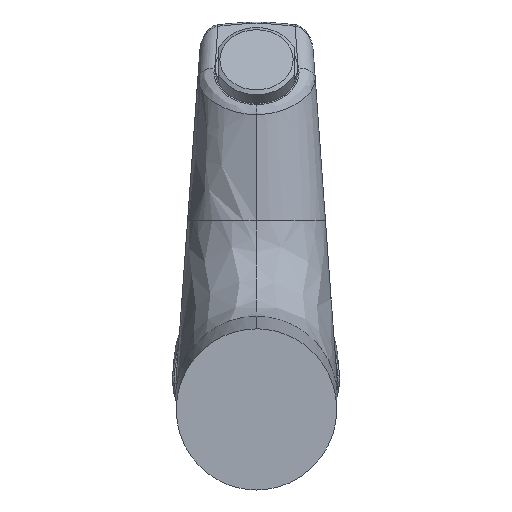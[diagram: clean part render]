
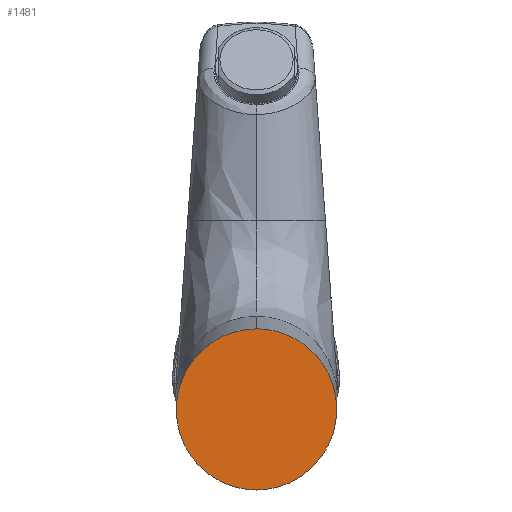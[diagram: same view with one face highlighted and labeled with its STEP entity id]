
A CAD part, front view. The second image highlights one B-rep face of the part: STEP entity #1481.
In plain terms, the highlighted planar face has unit normal (0, -1, 0) by its records, which use the part's own axes.
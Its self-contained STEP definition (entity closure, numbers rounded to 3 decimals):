
#317 = ORIENTED_EDGE ( 'NONE', *, *, #336, .T. ) ;
#336 = EDGE_CURVE ( 'NONE', #10906, #9453, #8501, .T. ) ;
#1481 = ADVANCED_FACE ( 'NONE', ( #2952 ), #10067, .F. ) ;
#1843 = DIRECTION ( 'NONE',  ( 0., 1., 0. ) ) ;
#2138 = CARTESIAN_POINT ( 'NONE',  ( -29.737, 239.383, 527.356 ) ) ;
#2929 = EDGE_CURVE ( 'NONE', #9453, #10906, #7257, .T. ) ;
#2952 = FACE_OUTER_BOUND ( 'NONE', #3497, .T. ) ;
#3497 = EDGE_LOOP ( 'NONE', ( #7930, #317 ) ) ;
#3794 = CARTESIAN_POINT ( 'NONE',  ( -76.752, 239.383, 480.161 ) ) ;
#4265 = CARTESIAN_POINT ( 'NONE',  ( 17.278, 239.383, 480.161 ) ) ;
#4383 = CARTESIAN_POINT ( 'NONE',  ( 17.278, 239.383, 527.356 ) ) ;
#5056 = CARTESIAN_POINT ( 'NONE',  ( -29.737, 239.383, 480.161 ) ) ;
#5791 = CARTESIAN_POINT ( 'NONE',  ( -29.737, 239.383, 527.356 ) ) ;
#7235 = CARTESIAN_POINT ( 'NONE',  ( -29.737, 239.383, 480.161 ) ) ;
#7257 =( BOUNDED_CURVE ( )  B_SPLINE_CURVE ( 3, ( #5056, #4265, #4383, #9730 ),
 .UNSPECIFIED., .F., .T. ) 
 B_SPLINE_CURVE_WITH_KNOTS ( ( 4, 4 ),
 ( 0., 3.142 ),
 .UNSPECIFIED. ) 
 CURVE ( )  GEOMETRIC_REPRESENTATION_ITEM ( )  RATIONAL_B_SPLINE_CURVE ( ( 1., 0.333, 0.333, 1. ) ) 
 REPRESENTATION_ITEM ( '' )  );
#7338 = DIRECTION ( 'NONE',  ( 0., 0., 1. ) ) ;
#7930 = ORIENTED_EDGE ( 'NONE', *, *, #2929, .T. ) ;
#8501 =( BOUNDED_CURVE ( )  B_SPLINE_CURVE ( 3, ( #5791, #10322, #3794, #7235 ),
 .UNSPECIFIED., .F., .F. ) 
 B_SPLINE_CURVE_WITH_KNOTS ( ( 4, 4 ),
 ( 3.142, 6.283 ),
 .UNSPECIFIED. ) 
 CURVE ( )  GEOMETRIC_REPRESENTATION_ITEM ( )  RATIONAL_B_SPLINE_CURVE ( ( 1., 0.333, 0.333, 1. ) ) 
 REPRESENTATION_ITEM ( '' )  );
#9171 = CARTESIAN_POINT ( 'NONE',  ( -39.237, 239.383, 495.266 ) ) ;
#9453 = VERTEX_POINT ( 'NONE', #10677 ) ;
#9730 = CARTESIAN_POINT ( 'NONE',  ( -29.737, 239.383, 527.356 ) ) ;
#10067 = PLANE ( 'NONE',  #11402 ) ;
#10322 = CARTESIAN_POINT ( 'NONE',  ( -76.752, 239.383, 527.356 ) ) ;
#10677 = CARTESIAN_POINT ( 'NONE',  ( -29.737, 239.383, 480.161 ) ) ;
#10906 = VERTEX_POINT ( 'NONE', #2138 ) ;
#11402 = AXIS2_PLACEMENT_3D ( 'NONE', #9171, #1843, #7338 ) ;
